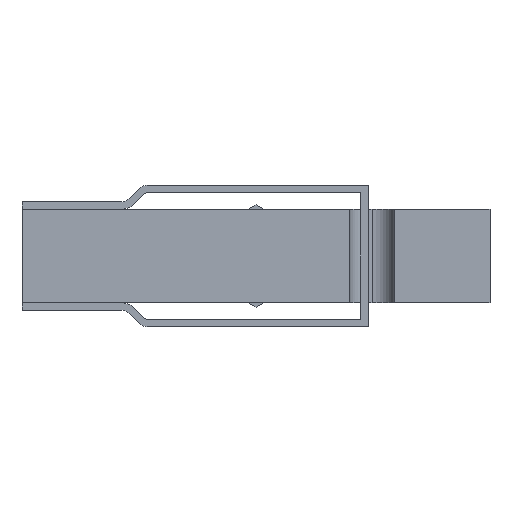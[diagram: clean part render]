
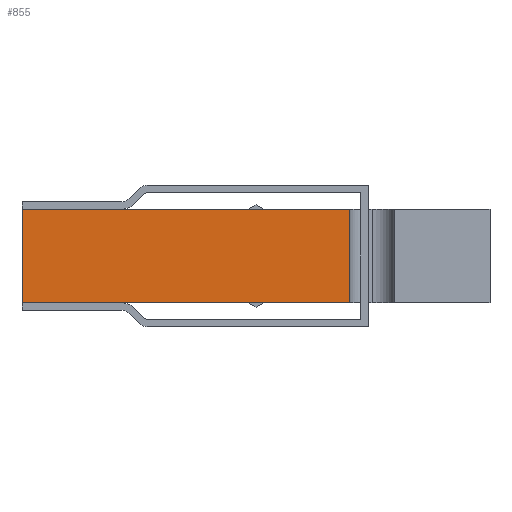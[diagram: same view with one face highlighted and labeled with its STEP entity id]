
A CAD part, left-side view. The second image highlights one B-rep face of the part: STEP entity #855.
In plain terms, the highlighted planar face has unit normal (-1, 0, 0).
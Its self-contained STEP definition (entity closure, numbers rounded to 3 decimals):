
#80 = LINE ( 'NONE', #1367, #82 ) ;
#82 = VECTOR ( 'NONE', #1343, 1000. ) ;
#117 = LINE ( 'NONE', #1406, #119 ) ;
#119 = VECTOR ( 'NONE', #1404, 1000. ) ;
#235 = FACE_OUTER_BOUND ( 'NONE', #3514, .T. ) ;
#303 = ORIENTED_EDGE ( 'NONE', *, *, #2441, .F. ) ;
#323 = ORIENTED_EDGE ( 'NONE', *, *, #2440, .T. ) ;
#327 = ORIENTED_EDGE ( 'NONE', *, *, #688, .T. ) ;
#336 = ORIENTED_EDGE ( 'NONE', *, *, #709, .T. ) ;
#688 = EDGE_CURVE ( 'NONE', #1012, #982, #80, .T. ) ;
#709 = EDGE_CURVE ( 'NONE', #1126, #1012, #117, .T. ) ;
#771 = VERTEX_POINT ( 'NONE', #1376 ) ;
#855 = ADVANCED_FACE ( 'NONE', ( #235 ), #2268, .F. ) ;
#982 = VERTEX_POINT ( 'NONE', #3695 ) ;
#1012 = VERTEX_POINT ( 'NONE', #3706 ) ;
#1126 = VERTEX_POINT ( 'NONE', #3789 ) ;
#1343 = DIRECTION ( 'NONE',  ( 0., 0., 1. ) ) ;
#1367 = CARTESIAN_POINT ( 'NONE',  ( 0., 19., 0. ) ) ;
#1376 = CARTESIAN_POINT ( 'NONE',  ( 0., 63.5, 12.7 ) ) ;
#1404 = DIRECTION ( 'NONE',  ( 0., -1., 0. ) ) ;
#1406 = CARTESIAN_POINT ( 'NONE',  ( 0., 0., 0. ) ) ;
#1686 = AXIS2_PLACEMENT_3D ( 'NONE', #2276, #2277, #2278 ) ;
#2268 = PLANE ( 'NONE',  #1686 ) ;
#2276 = CARTESIAN_POINT ( 'NONE',  ( 0., 0., 12.7 ) ) ;
#2277 = DIRECTION ( 'NONE',  ( 1., 0., 0. ) ) ;
#2278 = DIRECTION ( 'NONE',  ( 0., 0., -1. ) ) ;
#2440 = EDGE_CURVE ( 'NONE', #771, #1126, #3023, .T. ) ;
#2441 = EDGE_CURVE ( 'NONE', #771, #982, #3025, .T. ) ;
#3023 = LINE ( 'NONE', #3954, #3026 ) ;
#3025 = LINE ( 'NONE', #3956, #3028 ) ;
#3026 = VECTOR ( 'NONE', #3955, 1000. ) ;
#3028 = VECTOR ( 'NONE', #3957, 1000. ) ;
#3514 = EDGE_LOOP ( 'NONE', ( #336, #327, #303, #323 ) ) ;
#3695 = CARTESIAN_POINT ( 'NONE',  ( 0., 19., 12.7 ) ) ;
#3706 = CARTESIAN_POINT ( 'NONE',  ( 0., 19., 0. ) ) ;
#3789 = CARTESIAN_POINT ( 'NONE',  ( 0., 63.5, 0. ) ) ;
#3954 = CARTESIAN_POINT ( 'NONE',  ( 0., 63.5, 12.7 ) ) ;
#3955 = DIRECTION ( 'NONE',  ( 0., 0., -1. ) ) ;
#3956 = CARTESIAN_POINT ( 'NONE',  ( 0., 0., 12.7 ) ) ;
#3957 = DIRECTION ( 'NONE',  ( 0., -1., 0. ) ) ;
